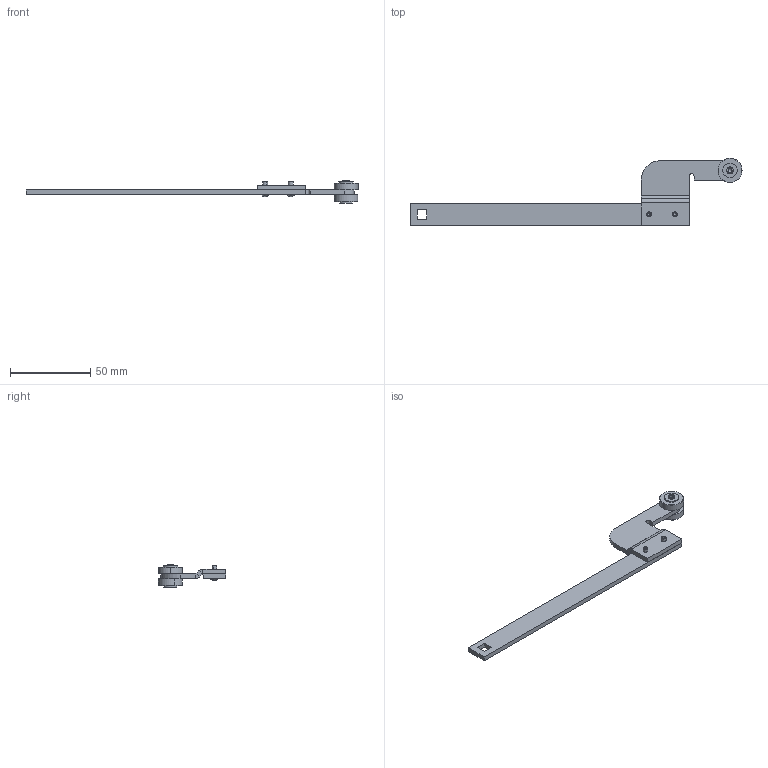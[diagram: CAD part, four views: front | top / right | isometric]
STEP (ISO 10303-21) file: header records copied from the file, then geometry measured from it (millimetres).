
FILE_DESCRIPTION (( 'STEP AP214' ), '1' );
FILE_NAME ('1C.AB31K-L.STEP', '2025-12-04T12:27:31', ( '' ), ( '' ), 'SwSTEP 2.0', 'SolidWorks 2021', '' );
FILE_SCHEMA (( 'AUTOMOTIVE_DESIGN' ));
Length unit declared in the file: millimetre
Products named in the file (8): P.052723_AB-K; 1C.AB31K-L; 1C.905.001_A; P.052724_AB-31; DIN 6791_fi3x8 - ZN; A.007462_AB-31; 1C.ROLKA.02.04.00_A-zak; DIN 125_M4
Assembly tree (9 placements, depth 3):
  1C.AB31K-L
    P.052723_AB-K
    A.007462_AB-31
      P.052724_AB-31
      1C.905.001_A  x2
      1C.ROLKA.02.04.00_A-zak
      DIN 125_M4
    DIN 6791_fi3x8 - ZN  x2
Bounding box: 207.5 x 42 x 14 mm (x, y, z)
Volume: 13499.5 mm3; surface area: 11679 mm2
Topology: 8 solids, 8 shells, 101 faces, 222 edges, 137 vertices
Faces by surface type: cylinder 44, plane 43, cone 6, torus 4, sphere 4
Entity records: 2644 total; most frequent: DIRECTION 454, CARTESIAN_POINT 393, ORIENTED_EDGE 364, EDGE_CURVE 182, AXIS2_PLACEMENT_3D 176, VERTEX_POINT 115, EDGE_LOOP 103, VECTOR 102
